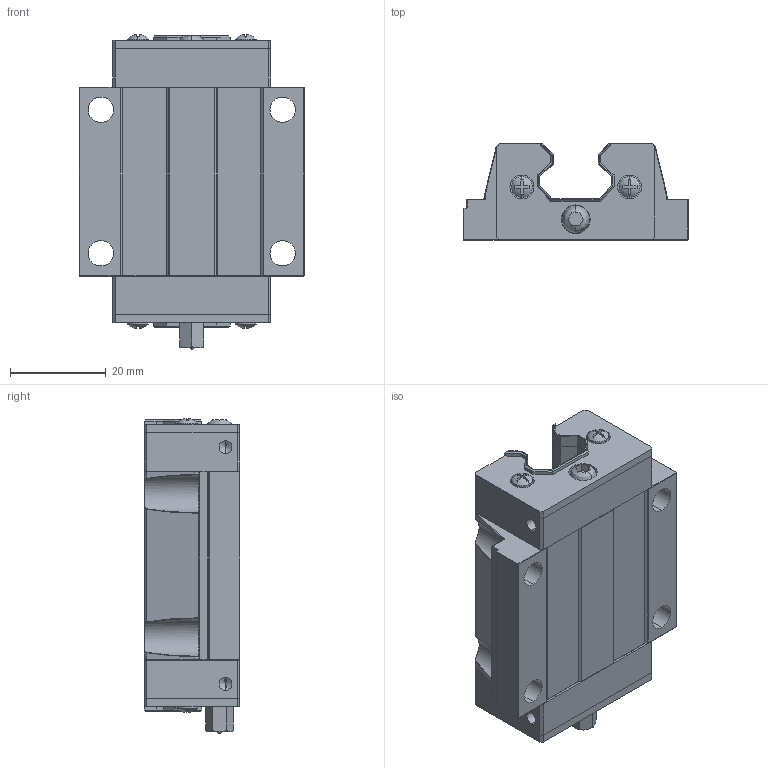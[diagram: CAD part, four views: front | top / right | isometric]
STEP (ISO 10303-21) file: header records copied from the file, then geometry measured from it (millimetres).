
FILE_DESCRIPTION (( 'STEP AP214' ), '1' );
FILE_NAME ('TRH15-A_HGW15CA.STEP', '2020-10-08T13:05:07', ( '' ), ( '' ), 'SwSTEP 2.0', 'SolidWorks 2018', '' );
FILE_SCHEMA (( 'AUTOMOTIVE_DESIGN' ));
Length unit declared in the file: millimetre
Products named in the file (7): TRH15-A_HGW15CA-1; TRH15-A_HGW15CA; TRH15-A_HGW15CA-4; TRH15-A_HGW15CA-6_M3*4; TRH15-A_HGW15CA-5_M3*6; TRH15-A_HGW15CA-3; TRH15-A_HGW15CA-2
Assembly tree (10 placements, depth 2):
  TRH15-A_HGW15CA
    TRH15-A_HGW15CA-1
    TRH15-A_HGW15CA-2
    TRH15-A_HGW15CA-3  x2
    TRH15-A_HGW15CA-5_M3*6  x4
    TRH15-A_HGW15CA-6_M3*4
    TRH15-A_HGW15CA-4
Bounding box: 47.1 x 20 x 65.83 mm (x, y, z)
Volume: 34323.8 mm3; surface area: 19402.8 mm2
Topology: 11 solids, 11 shells, 664 faces, 1644 edges, 978 vertices
Faces by surface type: plane 317, cylinder 170, sphere 64, bspline 54, torus 32, cone 27
Entity records: 22014 total; most frequent: CARTESIAN_POINT 5362, ORIENTED_EDGE 2580, DIRECTION 2579, EDGE_CURVE 1290, AXIS2_PLACEMENT_3D 914, VERTEX_POINT 777, LINE 751, VECTOR 751
